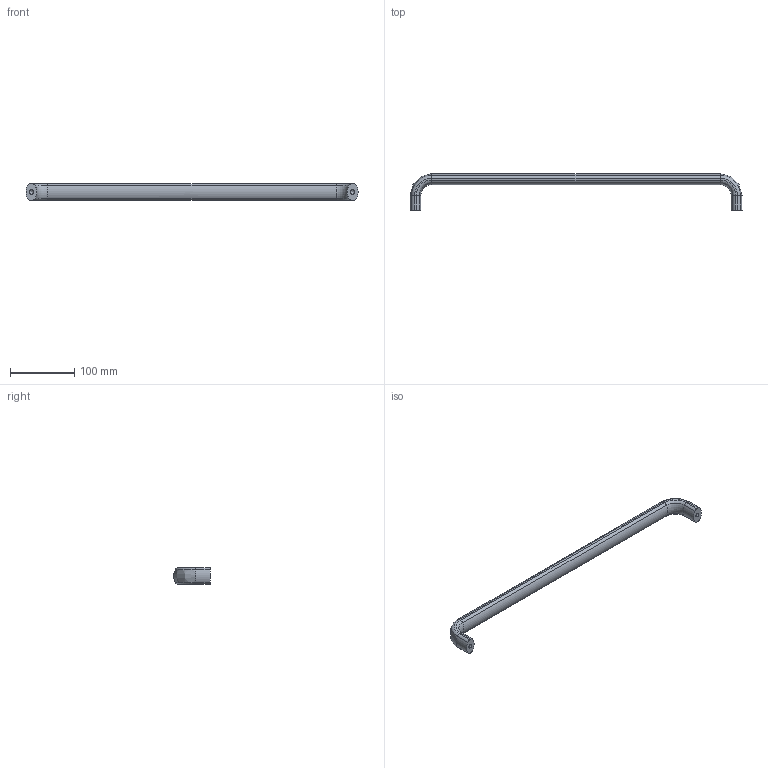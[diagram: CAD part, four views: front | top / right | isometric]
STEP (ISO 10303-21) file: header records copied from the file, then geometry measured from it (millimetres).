
FILE_DESCRIPTION( ( 'STEP AP203' ), '1' );
FILE_NAME( 'C:/Temp/Ganter_Step_05_03_2020/data/1_2/gn_565/Cabinet ''''U'''' handle GN 565-26-500-BL.stp', '2020-03-05T10:09:07', ( 'License CC BY-ND 4.0' ), ( 'CADENAS' ), ' ', 'PARTsolutions', ' ' );
FILE_SCHEMA( ( 'CONFIG_CONTROL_DESIGN' ) );
Length unit declared in the file: millimetre
Products named in the file (1): _Cabinet ''U'' handle GN 565-26-500-BL
Bounding box: 516.88 x 56.99 x 25.99 mm (x, y, z)
Volume: 204119.2 mm3; surface area: 41268 mm2
Topology: 1 solids, 1 shells, 50 faces, 126 edges, 78 vertices
Faces by surface type: cylinder 26, torus 14, plane 6, cone 2, bspline 2
Full cylindrical faces by diameter (mm): 6.647 x2
Entity records: 1602 total; most frequent: CARTESIAN_POINT 351, DIRECTION 282, ORIENTED_EDGE 240, AXIS2_PLACEMENT_3D 129, EDGE_CURVE 120, CIRCLE 80, VERTEX_POINT 78, EDGE_LOOP 54
